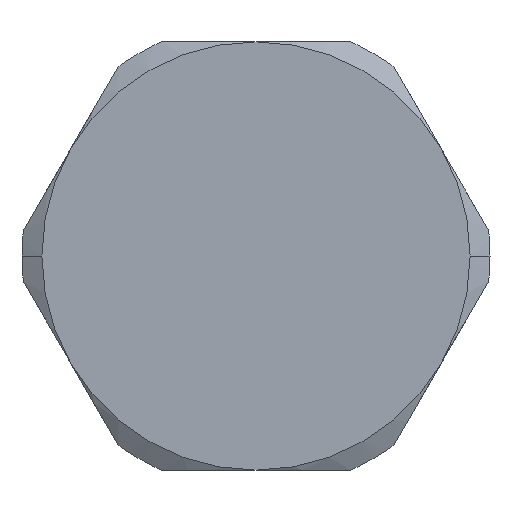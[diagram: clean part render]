
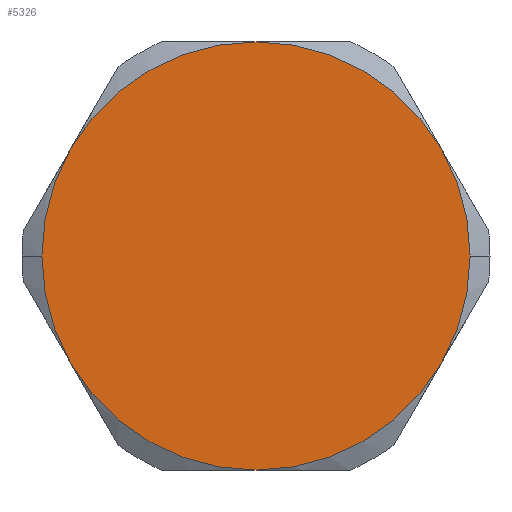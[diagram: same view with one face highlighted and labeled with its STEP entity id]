
A CAD part, left-side view. The second image highlights one B-rep face of the part: STEP entity #5326.
In plain terms, the highlighted planar face has unit normal (-1, 0, 0).
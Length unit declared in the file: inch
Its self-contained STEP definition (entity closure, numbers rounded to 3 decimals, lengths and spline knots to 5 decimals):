
#608=CARTESIAN_POINT('',(0.,0.5,0.75));
#609=VERTEX_POINT('',#608);
#625=CARTESIAN_POINT('',(0.0,0.43301,0.5));
#626=VERTEX_POINT('',#625);
#640=CARTESIAN_POINT('',(0.0,0.0,0.75));
#641=DIRECTION('',(-1.0,0.0,0.0));
#642=DIRECTION('',(0.0,1.0,0.0));
#643=AXIS2_PLACEMENT_3D('',#640,#641,#642);
#644=CIRCLE('',#643,0.5);
#645=EDGE_CURVE('',#609,#626,#644,.T.);
#655=CARTESIAN_POINT('',(0.,-0.5,0.75));
#656=VERTEX_POINT('',#655);
#663=CARTESIAN_POINT('',(0.0,-0.43301,0.5));
#664=VERTEX_POINT('',#663);
#665=CARTESIAN_POINT('',(0.0,0.0,0.75));
#666=DIRECTION('',(-1.0,0.0,0.0));
#667=DIRECTION('',(0.0,1.0,0.0));
#668=AXIS2_PLACEMENT_3D('',#665,#666,#667);
#669=CIRCLE('',#668,0.5);
#670=EDGE_CURVE('',#664,#656,#669,.T.);
#4624=CARTESIAN_POINT('',(0.0,-0.43301,1.0));
#4625=VERTEX_POINT('',#4624);
#4639=CARTESIAN_POINT('',(0.0,0.0,0.75));
#4640=DIRECTION('',(-1.0,0.0,0.0));
#4641=DIRECTION('',(0.0,1.0,0.0));
#4642=AXIS2_PLACEMENT_3D('',#4639,#4640,#4641);
#4643=CIRCLE('',#4642,0.5);
#4644=EDGE_CURVE('',#656,#4625,#4643,.T.);
#4654=CARTESIAN_POINT('',(0.,0.,0.25));
#4655=VERTEX_POINT('',#4654);
#4692=CARTESIAN_POINT('',(0.0,0.0,0.75));
#4693=DIRECTION('',(-1.0,0.0,0.0));
#4694=DIRECTION('',(0.0,1.0,0.0));
#4695=AXIS2_PLACEMENT_3D('',#4692,#4693,#4694);
#4696=CIRCLE('',#4695,0.5);
#4697=EDGE_CURVE('',#4655,#664,#4696,.T.);
#4743=CARTESIAN_POINT('',(0.0,0.0,0.75));
#4744=DIRECTION('',(-1.0,0.0,0.0));
#4745=DIRECTION('',(0.0,1.0,0.0));
#4746=AXIS2_PLACEMENT_3D('',#4743,#4744,#4745);
#4747=CIRCLE('',#4746,0.5);
#4748=EDGE_CURVE('',#626,#4655,#4747,.T.);
#4759=CARTESIAN_POINT('',(0.0,0.43301,1.));
#4760=VERTEX_POINT('',#4759);
#4761=CARTESIAN_POINT('',(0.0,0.0,0.75));
#4762=DIRECTION('',(-1.0,0.0,0.0));
#4763=DIRECTION('',(0.0,1.0,0.0));
#4764=AXIS2_PLACEMENT_3D('',#4761,#4762,#4763);
#4765=CIRCLE('',#4764,0.5);
#4766=EDGE_CURVE('',#4760,#609,#4765,.T.);
#4805=CARTESIAN_POINT('',(0.,0.,1.25));
#4806=VERTEX_POINT('',#4805);
#4807=CARTESIAN_POINT('',(0.0,0.0,0.75));
#4808=DIRECTION('',(-1.0,0.0,0.0));
#4809=DIRECTION('',(0.0,1.0,0.0));
#4810=AXIS2_PLACEMENT_3D('',#4807,#4808,#4809);
#4811=CIRCLE('',#4810,0.5);
#4812=EDGE_CURVE('',#4806,#4760,#4811,.T.);
#4858=CARTESIAN_POINT('',(0.0,0.0,0.75));
#4859=DIRECTION('',(-1.0,0.0,0.0));
#4860=DIRECTION('',(0.0,1.0,0.0));
#4861=AXIS2_PLACEMENT_3D('',#4858,#4859,#4860);
#4862=CIRCLE('',#4861,0.5);
#4863=EDGE_CURVE('',#4625,#4806,#4862,.T.);
#5311=CARTESIAN_POINT('',(0.0,0.,0.75));
#5312=DIRECTION('',(1.0,0.0,0.0));
#5313=DIRECTION('',(0.0,0.0,-1.0));
#5314=AXIS2_PLACEMENT_3D('',#5311,#5312,#5313);
#5315=PLANE('',#5314);
#5316=ORIENTED_EDGE('',*,*,#4863,.T.);
#5317=ORIENTED_EDGE('',*,*,#4812,.T.);
#5318=ORIENTED_EDGE('',*,*,#4766,.T.);
#5319=ORIENTED_EDGE('',*,*,#645,.T.);
#5320=ORIENTED_EDGE('',*,*,#4748,.T.);
#5321=ORIENTED_EDGE('',*,*,#4697,.T.);
#5322=ORIENTED_EDGE('',*,*,#670,.T.);
#5323=ORIENTED_EDGE('',*,*,#4644,.T.);
#5324=EDGE_LOOP('',(#5316,#5317,#5318,#5319,#5320,#5321,#5322,#5323));
#5325=FACE_OUTER_BOUND('',#5324,.T.);
#5326=ADVANCED_FACE('',(#5325),#5315,.F.);
